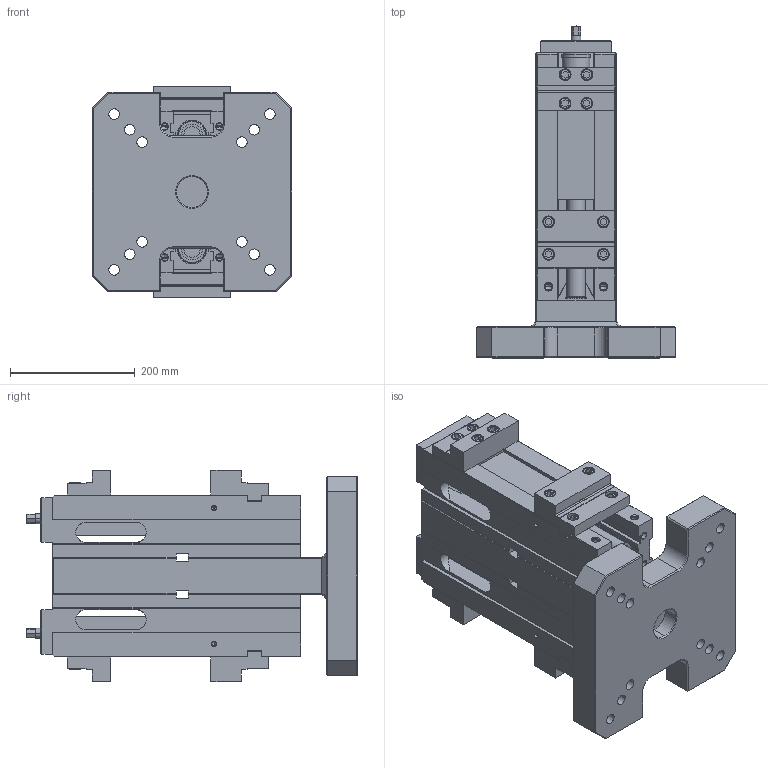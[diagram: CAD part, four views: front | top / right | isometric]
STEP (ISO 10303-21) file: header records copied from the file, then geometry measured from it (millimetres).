
FILE_DESCRIPTION((''),'2;1');
FILE_NAME('FG_WH_TOMB_00BKBNP003_ASM','2026-06-14T12:32:40',('Admin'),(''),'CREO PARAMETRIC BY PTC INC, 2025010','CREO PARAMETRIC BY PTC INC, 2025010','');
FILE_SCHEMA(('CONFIG_CONTROL_DESIGN'));
Length unit declared in the file: metre
Products named in the file (8): BACK-TO-BACK-NC-4; FG_VC_HIPR_C0055NP001_3; DIN912-M12X25-12_9; DIN912-M12X45-12_9; FIX_JAW_NC_ASM; FG_VC_HIPR_C0054NP001_2; MOVABLE_JAW_NC_ASM; FG_WH_TOMB_00BKBNP003_ASM
Assembly tree (15 placements, depth 3):
  FG_WH_TOMB_00BKBNP003_ASM
    BACK-TO-BACK-NC-4
    FIX_JAW_NC_ASM  x2
      FG_VC_HIPR_C0055NP001_3
      DIN912-M12X25-12_9
      DIN912-M12X45-12_9
    MOVABLE_JAW_NC_ASM  x2
      FG_VC_HIPR_C0054NP001_2
      DIN912-M12X25-12_9
      DIN912-M12X45-12_9
Bounding box: 320 x 532.7 x 339.08 mm (x, y, z)
Volume: 15774020.2 mm3; surface area: 1419459.5 mm2
Topology: 21 solids, 126 shells, 1755 faces, 4678 edges, 3103 vertices
Faces by surface type: plane 871, cylinder 630, cone 202, torus 52
Entity records: 49028 total; most frequent: CARTESIAN_POINT 13997, DIRECTION 7358, ORIENTED_EDGE 6928, EDGE_CURVE 3666, AXIS2_PLACEMENT_3D 2656, VERTEX_POINT 2483, VECTOR 2046, LINE 2046
